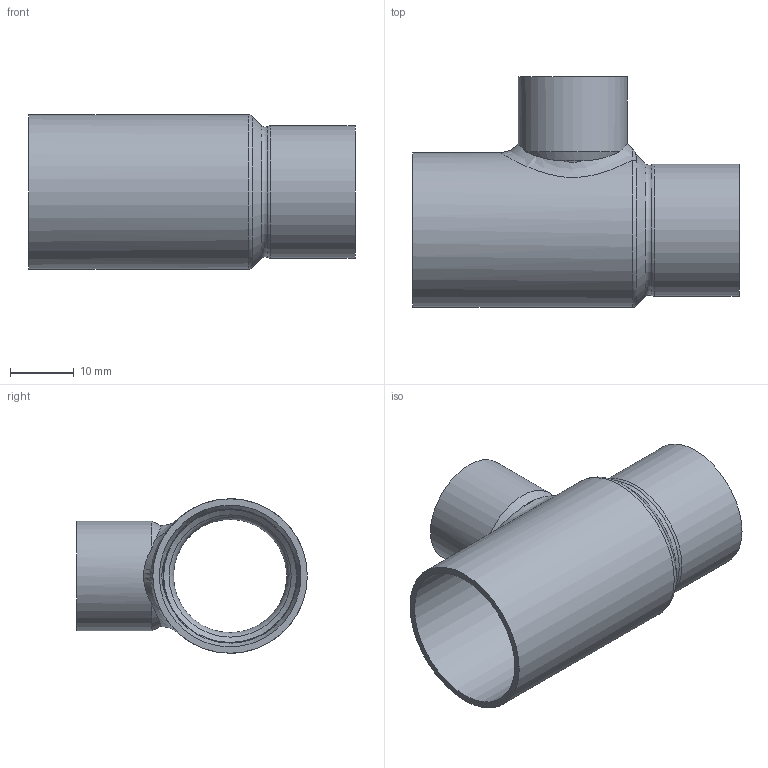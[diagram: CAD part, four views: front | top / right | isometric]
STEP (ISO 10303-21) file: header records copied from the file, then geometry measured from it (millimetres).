
FILE_DESCRIPTION(/* description */ (''),/* implementation_level */ '2;1');
FILE_NAME(/* name */ 'G:\Technik\Management\ontwikkeling\Ontwikkeling + Leveringsdokumenten + proefberichten\Sanha Ternat\Ternat 2024\Step files\5130221518_3d gem.stp',/* time_stamp */ '2024-02-29T09:29:54+01:00',/* author */ ('vdvijverd'),/* organization */ (''),/* preprocessor_version */ 'ST-DEVELOPER v19',/* originating_system */ 'Autodesk Inventor 2023',/* authorisation */ '');
FILE_SCHEMA (('AP203_CONFIGURATION_CONTROLLED_3D_DESIGN_OF_MECHANICAL_PARTS_AND_ASSEMBLIES_MIM_LF { 1 0 10303 203 3 1 4 }','AUTOMOTIVE_DESIGN { 1 0 10303 214 3 1 1 }','INTEGRATED_CNC_SCHEMA'));
Length unit declared in the file: millimetre
Products named in the file (1): 5130221518_3d gem
Bounding box: 51 x 36.08 x 24.15 mm (x, y, z)
Volume: 4987 mm3; surface area: 8270.6 mm2
Topology: 1 solids, 1 shells, 30 faces, 80 edges, 51 vertices
Faces by surface type: cylinder 11, torus 7, cone 6, bspline 3, plane 3
Full cylindrical faces by diameter (mm): 15.1 x1, 17.1 x1, 18.1 x1, 20.68 x1, 21 x1, 22.15 x1, 24.15 x1
Entity records: 1468 total; most frequent: CARTESIAN_POINT 686, ORIENTED_EDGE 160, DIRECTION 155, EDGE_CURVE 80, AXIS2_PLACEMENT_3D 72, VERTEX_POINT 51, CIRCLE 44, EDGE_LOOP 33
